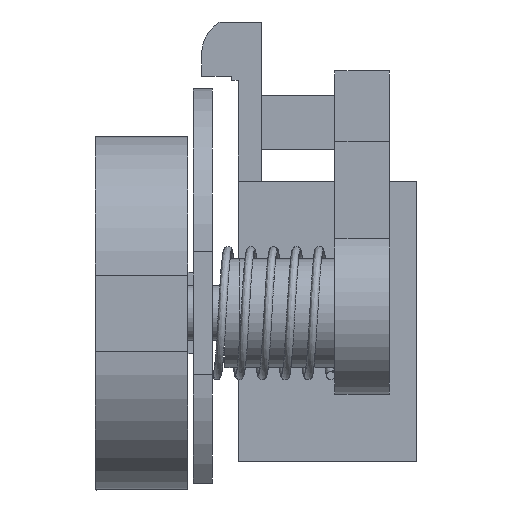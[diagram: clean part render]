
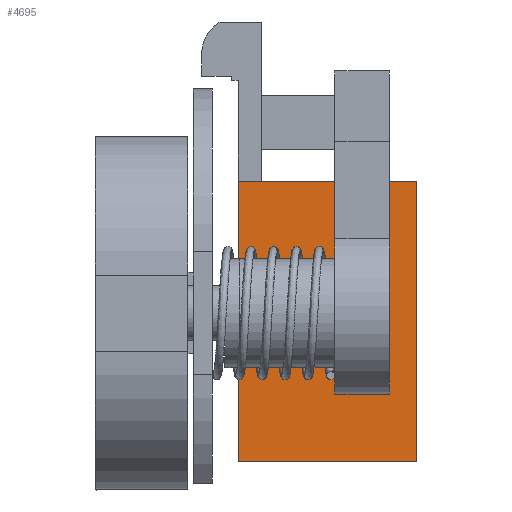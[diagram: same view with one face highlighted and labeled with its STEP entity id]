
A CAD part, front view. The second image highlights one B-rep face of the part: STEP entity #4695.
In plain terms, the highlighted planar face has unit normal (0, -1, 0).
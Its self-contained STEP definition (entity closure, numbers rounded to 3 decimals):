
#4290 = VERTEX_POINT('',#4291);
#4291 = CARTESIAN_POINT('',(-32.5,4.5,4.85));
#4300 = PLANE('',#4301);
#4301 = AXIS2_PLACEMENT_3D('',#4302,#4303,#4304);
#4302 = CARTESIAN_POINT('',(-32.5,4.5,-5.45));
#4303 = DIRECTION('',(-1.,-0.,-0.));
#4304 = DIRECTION('',(0.,-0.,-1.));
#4312 = PLANE('',#4313);
#4313 = AXIS2_PLACEMENT_3D('',#4314,#4315,#4316);
#4314 = CARTESIAN_POINT('',(-32.5,4.5,4.85));
#4315 = DIRECTION('',(-0.,-0.,1.));
#4316 = DIRECTION('',(1.,-0.,-0.));
#4324 = EDGE_CURVE('',#4325,#4290,#4327,.T.);
#4325 = VERTEX_POINT('',#4326);
#4326 = CARTESIAN_POINT('',(-32.5,4.5,-5.45));
#4327 = SURFACE_CURVE('',#4328,(#4332,#4339),.PCURVE_S1.);
#4328 = LINE('',#4329,#4330);
#4329 = CARTESIAN_POINT('',(-32.5,4.5,-5.45));
#4330 = VECTOR('',#4331,1.);
#4331 = DIRECTION('',(-0.,-0.,1.));
#4332 = PCURVE('',#4300,#4333);
#4333 = DEFINITIONAL_REPRESENTATION('',(#4334),#4338);
#4334 = LINE('',#4335,#4336);
#4335 = CARTESIAN_POINT('',(0.,0.));
#4336 = VECTOR('',#4337,1.);
#4337 = DIRECTION('',(-1.,0.));
#4338 = ( GEOMETRIC_REPRESENTATION_CONTEXT(2) 
PARAMETRIC_REPRESENTATION_CONTEXT() REPRESENTATION_CONTEXT('2D SPACE',''
  ) );
#4339 = PCURVE('',#4340,#4345);
#4340 = PLANE('',#4341);
#4341 = AXIS2_PLACEMENT_3D('',#4342,#4343,#4344);
#4342 = CARTESIAN_POINT('',(-32.5,4.5,-5.45));
#4343 = DIRECTION('',(-0.,1.,-0.));
#4344 = DIRECTION('',(0.,-0.,-1.));
#4345 = DEFINITIONAL_REPRESENTATION('',(#4346),#4350);
#4346 = LINE('',#4347,#4348);
#4347 = CARTESIAN_POINT('',(0.,-0.));
#4348 = VECTOR('',#4349,1.);
#4349 = DIRECTION('',(-1.,0.));
#4350 = ( GEOMETRIC_REPRESENTATION_CONTEXT(2) 
PARAMETRIC_REPRESENTATION_CONTEXT() REPRESENTATION_CONTEXT('2D SPACE',''
  ) );
#4368 = PLANE('',#4369);
#4369 = AXIS2_PLACEMENT_3D('',#4370,#4371,#4372);
#4370 = CARTESIAN_POINT('',(-32.5,4.5,-5.45));
#4371 = DIRECTION('',(-0.,-0.,1.));
#4372 = DIRECTION('',(1.,-0.,-0.));
#4516 = EDGE_CURVE('',#4290,#4517,#4519,.T.);
#4517 = VERTEX_POINT('',#4518);
#4518 = CARTESIAN_POINT('',(-39.05,4.5,4.85));
#4519 = SURFACE_CURVE('',#4520,(#4524,#4531),.PCURVE_S1.);
#4520 = LINE('',#4521,#4522);
#4521 = CARTESIAN_POINT('',(-32.5,4.5,4.85));
#4522 = VECTOR('',#4523,1.);
#4523 = DIRECTION('',(-1.,-0.,-0.));
#4524 = PCURVE('',#4312,#4525);
#4525 = DEFINITIONAL_REPRESENTATION('',(#4526),#4530);
#4526 = LINE('',#4527,#4528);
#4527 = CARTESIAN_POINT('',(0.,0.));
#4528 = VECTOR('',#4529,1.);
#4529 = DIRECTION('',(-1.,0.));
#4530 = ( GEOMETRIC_REPRESENTATION_CONTEXT(2) 
PARAMETRIC_REPRESENTATION_CONTEXT() REPRESENTATION_CONTEXT('2D SPACE',''
  ) );
#4531 = PCURVE('',#4340,#4532);
#4532 = DEFINITIONAL_REPRESENTATION('',(#4533),#4537);
#4533 = LINE('',#4534,#4535);
#4534 = CARTESIAN_POINT('',(-10.3,-0.));
#4535 = VECTOR('',#4536,1.);
#4536 = DIRECTION('',(0.,1.));
#4537 = ( GEOMETRIC_REPRESENTATION_CONTEXT(2) 
PARAMETRIC_REPRESENTATION_CONTEXT() REPRESENTATION_CONTEXT('2D SPACE',''
  ) );
#4579 = PLANE('',#4580);
#4580 = AXIS2_PLACEMENT_3D('',#4581,#4582,#4583);
#4581 = CARTESIAN_POINT('',(-39.05,-20.8,8.55));
#4582 = DIRECTION('',(-1.,0.,0.));
#4583 = DIRECTION('',(0.,0.,1.));
#4695 = ADVANCED_FACE('',(#4696),#4340,.F.);
#4696 = FACE_BOUND('',#4697,.F.);
#4697 = EDGE_LOOP('',(#4698,#4699,#4722,#4743));
#4698 = ORIENTED_EDGE('',*,*,#4324,.F.);
#4699 = ORIENTED_EDGE('',*,*,#4700,.T.);
#4700 = EDGE_CURVE('',#4325,#4701,#4703,.T.);
#4701 = VERTEX_POINT('',#4702);
#4702 = CARTESIAN_POINT('',(-39.05,4.5,-5.45));
#4703 = SURFACE_CURVE('',#4704,(#4708,#4715),.PCURVE_S1.);
#4704 = LINE('',#4705,#4706);
#4705 = CARTESIAN_POINT('',(-32.5,4.5,-5.45));
#4706 = VECTOR('',#4707,1.);
#4707 = DIRECTION('',(-1.,-0.,-0.));
#4708 = PCURVE('',#4340,#4709);
#4709 = DEFINITIONAL_REPRESENTATION('',(#4710),#4714);
#4710 = LINE('',#4711,#4712);
#4711 = CARTESIAN_POINT('',(0.,-0.));
#4712 = VECTOR('',#4713,1.);
#4713 = DIRECTION('',(0.,1.));
#4714 = ( GEOMETRIC_REPRESENTATION_CONTEXT(2) 
PARAMETRIC_REPRESENTATION_CONTEXT() REPRESENTATION_CONTEXT('2D SPACE',''
  ) );
#4715 = PCURVE('',#4368,#4716);
#4716 = DEFINITIONAL_REPRESENTATION('',(#4717),#4721);
#4717 = LINE('',#4718,#4719);
#4718 = CARTESIAN_POINT('',(0.,0.));
#4719 = VECTOR('',#4720,1.);
#4720 = DIRECTION('',(-1.,0.));
#4721 = ( GEOMETRIC_REPRESENTATION_CONTEXT(2) 
PARAMETRIC_REPRESENTATION_CONTEXT() REPRESENTATION_CONTEXT('2D SPACE',''
  ) );
#4722 = ORIENTED_EDGE('',*,*,#4723,.T.);
#4723 = EDGE_CURVE('',#4701,#4517,#4724,.T.);
#4724 = SURFACE_CURVE('',#4725,(#4729,#4736),.PCURVE_S1.);
#4725 = LINE('',#4726,#4727);
#4726 = CARTESIAN_POINT('',(-39.05,4.5,1.55));
#4727 = VECTOR('',#4728,1.);
#4728 = DIRECTION('',(0.,-0.,1.));
#4729 = PCURVE('',#4340,#4730);
#4730 = DEFINITIONAL_REPRESENTATION('',(#4731),#4735);
#4731 = LINE('',#4732,#4733);
#4732 = CARTESIAN_POINT('',(-7.,6.55));
#4733 = VECTOR('',#4734,1.);
#4734 = DIRECTION('',(-1.,0.));
#4735 = ( GEOMETRIC_REPRESENTATION_CONTEXT(2) 
PARAMETRIC_REPRESENTATION_CONTEXT() REPRESENTATION_CONTEXT('2D SPACE',''
  ) );
#4736 = PCURVE('',#4579,#4737);
#4737 = DEFINITIONAL_REPRESENTATION('',(#4738),#4742);
#4738 = LINE('',#4739,#4740);
#4739 = CARTESIAN_POINT('',(-7.,25.3));
#4740 = VECTOR('',#4741,1.);
#4741 = DIRECTION('',(1.,-0.));
#4742 = ( GEOMETRIC_REPRESENTATION_CONTEXT(2) 
PARAMETRIC_REPRESENTATION_CONTEXT() REPRESENTATION_CONTEXT('2D SPACE',''
  ) );
#4743 = ORIENTED_EDGE('',*,*,#4516,.F.);
